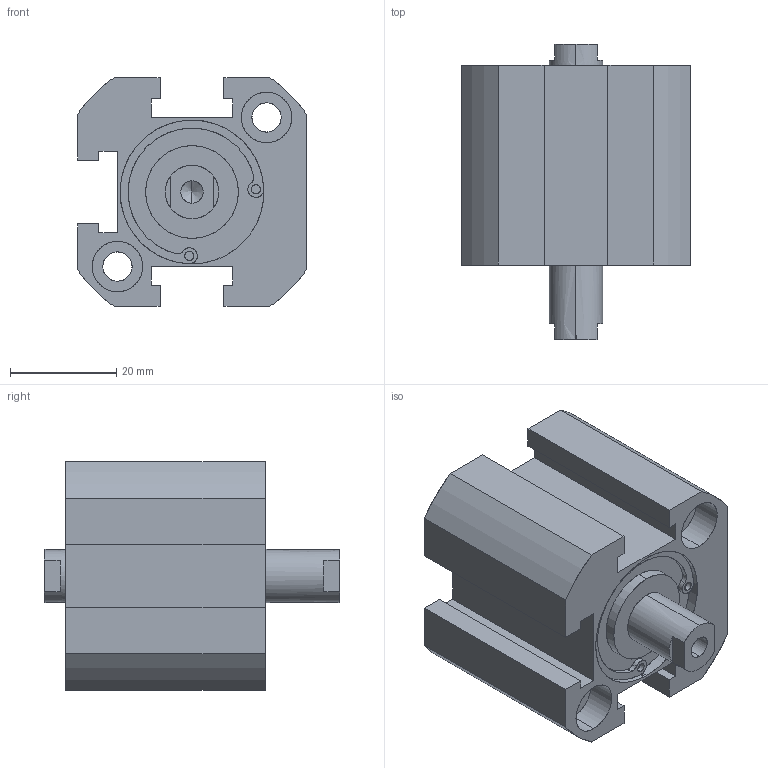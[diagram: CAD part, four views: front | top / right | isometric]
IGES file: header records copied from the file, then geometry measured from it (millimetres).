
Start section: SolidWorks IGES file using analytic representation for surfaces
Global section: file name: C:\Users\Toshiba\Desktop\XG#7-25-10.IGS; native system: SolidWorks 2014; preprocessor: SolidWorks 2014; author: Toshiba; date: 160524.095740; units: millimetre
Bounding box: 43 x 55.5 x 43 mm (x, y, z)
Surface area: 14598.5 mm2 (no closed solid volume)
Topology: 0 solids, 0 shells, 127 faces, 1902 edges, 1894 vertices
Faces by surface type: revolution 73, bspline 54
